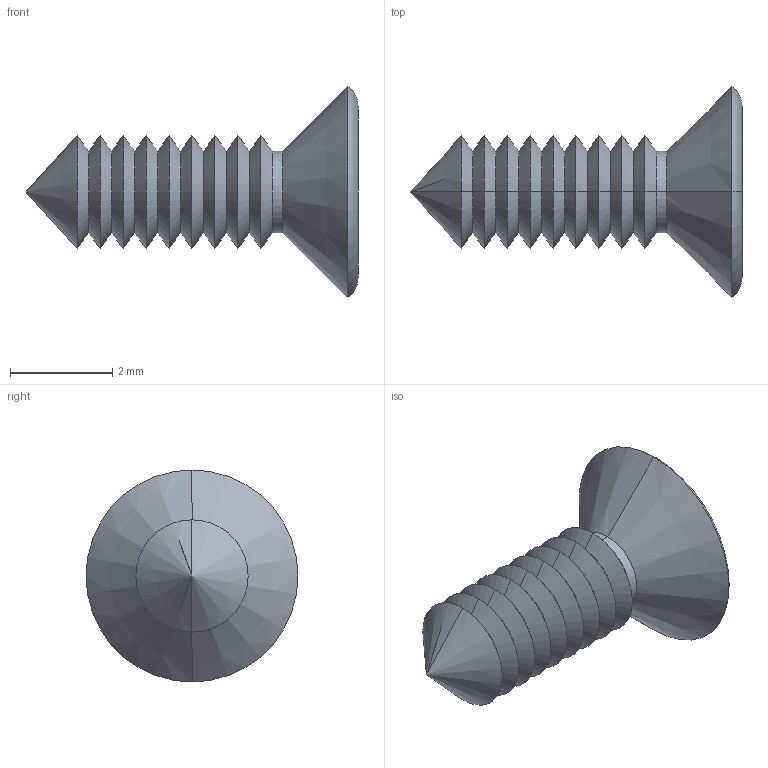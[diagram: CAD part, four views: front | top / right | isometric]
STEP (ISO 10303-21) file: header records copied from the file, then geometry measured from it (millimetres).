
FILE_DESCRIPTION (( 'STEP AP214' ), '1' );
FILE_NAME ('Cargol 2,1x6,5 PP64D.STEP', '2017-09-08T08:41:49', ( 'aaa' ), ( '' ), 'SwSTEP 2.0', 'SolidWorks 2013', '' );
FILE_SCHEMA (( 'AUTOMOTIVE_DESIGN' ));
Length unit declared in the file: millimetre
Products named in the file (1): Cargol 2,1x6,5 PP64D
Bounding box: 6.5 x 4.15 x 4.15 mm (x, y, z)
Volume: 23.4 mm3; surface area: 77.3 mm2
Topology: 1 solids, 1 shells, 56 faces, 122 edges, 67 vertices
Faces by surface type: cone 38, plane 14, torus 2, cylinder 2
Entity records: 1510 total; most frequent: DIRECTION 278, CARTESIAN_POINT 244, ORIENTED_EDGE 240, EDGE_CURVE 120, AXIS2_PLACEMENT_3D 101, VECTOR 76, LINE 76, VERTEX_POINT 67
